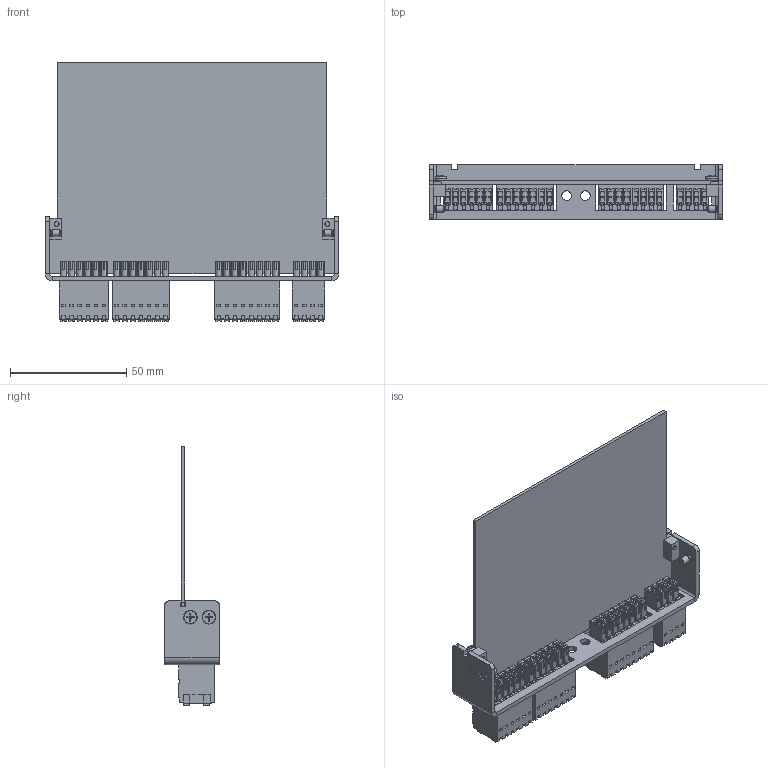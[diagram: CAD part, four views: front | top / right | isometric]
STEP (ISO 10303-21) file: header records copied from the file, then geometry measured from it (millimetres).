
FILE_DESCRIPTION(/* description */ ('Analog I_O','CAx-IF Rec.Pracs.---Representation and Presentation of Product Manufacturing Information (PMI)---4.0---2014-10-13'),/* implementation_level */ '2;1');
FILE_NAME(/* name */ 'G:\Alle CAD Daten\CAMTEC_2020_Pack and Go\PSU CPS-i3000 - CPS-i2000\Analog I_O.stp',/* time_stamp */ '2020-09-20T22:47:56+02:00',/* author */ ('rryba'),/* organization */ (''),/* preprocessor_version */ 'ST-DEVELOPER v18.1',/* originating_system */ 'Autodesk Inventor 2021',/* authorisation */ '');
FILE_SCHEMA (('AP242_MANAGED_MODEL_BASED_3D_ENGINEERING_MIM_LF { 1 0 10303 442 1 1 4 }'));
Products named in the file (11): Analog I_O; 2051054004; 2051055001; 2530278; Analog PCB; 1277290000; 1277320000; 1277330000; 1277340000; ISO 7045 - M2,5 x 6 - 4.8 - H; DIN 433 - 2,7
Assembly tree (16 placements, depth 2):
  Analog I_O
    2051054004
    2051055001  x2
    2530278  x4
    Analog PCB
    1277290000
    1277320000
    1277330000
    1277340000
    ISO 7045 - M2,5 x 6 - 4.8 - H  x2
    DIN 433 - 2,7  x2
Bounding box: 126.4 x 23.6 x 111.55 mm (x, y, z)
Volume: 45676.3 mm3; surface area: 51073.8 mm2
Topology: 66 solids, 66 shells, 2966 faces, 8359 edges, 5916 vertices
Faces by surface type: plane 2612, cylinder 244, cone 76, torus 32, sphere 2
Full cylindrical faces by diameter (mm): 1.4 x50, 2.013 x2, 2.256 x2, 2.459 x2, 2.5 x4, 2.693 x4, 2.7 x2, 3 x4, 3.4 x4, 4.2 x2, 5 x2, 5.5 x4, 5.9 x4
Entity records: 90493 total; most frequent: CARTESIAN_POINT 16329, ORIENTED_EDGE 15410, DIRECTION 14637, EDGE_CURVE 7705, LINE 6599, VECTOR 6599, VERTEX_POINT 5095, AXIS2_PLACEMENT_3D 4019
